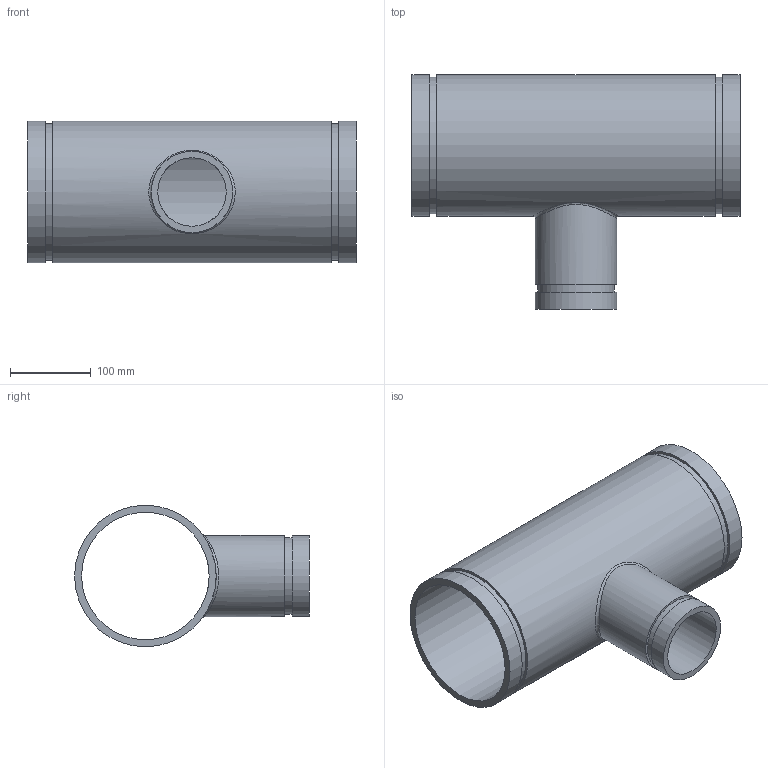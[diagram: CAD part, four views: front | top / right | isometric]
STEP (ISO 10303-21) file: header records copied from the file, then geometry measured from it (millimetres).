
FILE_DESCRIPTION(/* description */ ('VIC REDUCING TEE No 25-C','CAx-IF Rec.Pracs.---Representation and Presentation of Product Manufacturing Information (PMI)---4.0---2014-10-13'),/* implementation_level */ '2;1');
FILE_NAME(/* name */ 'C:\Users\Vjadhav\AppData\Roaming\Autodesk\ApplicationPlugins\Back Up\Victaulic_AWWA_Tee Reducing_No 25-C (DRG)\Victaulic_AWWA_Tee Reducing_No 25-C (DRG)_06.0x03.0 (150x80).stp',/* time_stamp */ '2020-08-18T18:17:39+06:00',/* author */ ('CORINNE GRAY'),/* organization */ ('Victaulic'),/* preprocessor_version */ 'ST-DEVELOPER v17.2',/* originating_system */ 'Autodesk Inventor 2019',/* authorisation */ '');
FILE_SCHEMA (('AP242_MANAGED_MODEL_BASED_3D_ENGINEERING_MIM_LF { 1 0 10303 442 1 1 4 }'));
Length unit declared in the file: inch
Products named in the file (1): 25C-06.0x03.0
Bounding box: 406.4 x 290.83 x 175.26 mm (x, y, z)
Volume: 2026388.3 mm3; surface area: 504050 mm2
Topology: 1 solids, 1 shells, 20 faces, 44 edges, 33 vertices
Faces by surface type: cylinder 10, plane 9, bspline 1
Full cylindrical faces by diameter (mm): 84.836 x1, 94.564 x1, 100.584 x2, 157.988 x1, 169.062 x2, 175.26 x3
Entity records: 982 total; most frequent: CARTESIAN_POINT 358, DIRECTION 135, ORIENTED_EDGE 90, AXIS2_PLACEMENT_3D 62, EDGE_CURVE 45, VERTEX_POINT 34, EDGE_LOOP 31, CIRCLE 29
